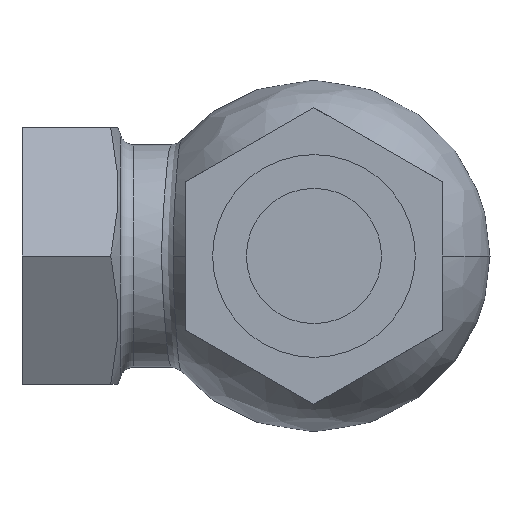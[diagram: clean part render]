
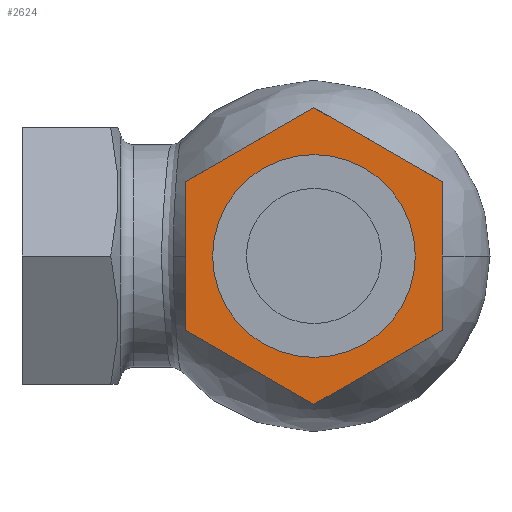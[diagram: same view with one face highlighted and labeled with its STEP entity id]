
A CAD part, front view. The second image highlights one B-rep face of the part: STEP entity #2624.
In plain terms, the highlighted planar face has unit normal (0, -1, 0).
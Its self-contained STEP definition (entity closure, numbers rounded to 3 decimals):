
#8 = LINE ( 'NONE', #1818, #4227 ) ;
#86 = ORIENTED_EDGE ( 'NONE', *, *, #3558, .T. ) ;
#121 = CIRCLE ( 'NONE', #490, 15. ) ;
#368 = FACE_BOUND ( 'NONE', #7537, .T. ) ;
#490 = AXIS2_PLACEMENT_3D ( 'NONE', #797, #4366, #7166 ) ;
#687 = ORIENTED_EDGE ( 'NONE', *, *, #10696, .T. ) ;
#797 = CARTESIAN_POINT ( 'NONE',  ( 0., -34., 0. ) ) ;
#894 = EDGE_LOOP ( 'NONE', ( #4110, #2842, #86, #3844, #4344, #8196 ) ) ;
#913 = VECTOR ( 'NONE', #11339, 1000. ) ;
#915 = LINE ( 'NONE', #9839, #1655 ) ;
#1183 = EDGE_CURVE ( 'NONE', #1936, #6440, #7364, .T. ) ;
#1268 = VECTOR ( 'NONE', #5452, 1000. ) ;
#1382 = LINE ( 'NONE', #10255, #4459 ) ;
#1543 = VECTOR ( 'NONE', #11042, 1000. ) ;
#1655 = VECTOR ( 'NONE', #5421, 1000. ) ;
#1818 = CARTESIAN_POINT ( 'NONE',  ( 0., -34., -21.939 ) ) ;
#1884 = CARTESIAN_POINT ( 'NONE',  ( 19., -34., -10.97 ) ) ;
#1936 = VERTEX_POINT ( 'NONE', #8176 ) ;
#2418 = CARTESIAN_POINT ( 'NONE',  ( 0., -34., 15. ) ) ;
#2624 = ADVANCED_FACE ( 'NONE', ( #368, #9193 ), #5695, .F. ) ;
#2842 = ORIENTED_EDGE ( 'NONE', *, *, #4265, .T. ) ;
#3359 = VERTEX_POINT ( 'NONE', #7919 ) ;
#3500 = CARTESIAN_POINT ( 'NONE',  ( 0., -34., 21.939 ) ) ;
#3558 = EDGE_CURVE ( 'NONE', #7994, #3359, #915, .T. ) ;
#3580 = LINE ( 'NONE', #10755, #1543 ) ;
#3844 = ORIENTED_EDGE ( 'NONE', *, *, #8539, .T. ) ;
#3934 = CARTESIAN_POINT ( 'NONE',  ( 15., -34., 0. ) ) ;
#4110 = ORIENTED_EDGE ( 'NONE', *, *, #11415, .T. ) ;
#4147 = AXIS2_PLACEMENT_3D ( 'NONE', #6529, #9160, #6358 ) ;
#4227 = VECTOR ( 'NONE', #6487, 1000. ) ;
#4265 = EDGE_CURVE ( 'NONE', #10386, #7994, #1382, .T. ) ;
#4344 = ORIENTED_EDGE ( 'NONE', *, *, #7889, .T. ) ;
#4366 = DIRECTION ( 'NONE',  ( 0., 1., 0. ) ) ;
#4459 = VECTOR ( 'NONE', #8580, 1000. ) ;
#5419 = ORIENTED_EDGE ( 'NONE', *, *, #6902, .T. ) ;
#5421 = DIRECTION ( 'NONE',  ( 0., 0., -1. ) ) ;
#5452 = DIRECTION ( 'NONE',  ( 0., 0., 1. ) ) ;
#5695 = PLANE ( 'NONE',  #5941 ) ;
#5941 = AXIS2_PLACEMENT_3D ( 'NONE', #3934, #9082, #8148 ) ;
#5966 = LINE ( 'NONE', #10332, #913 ) ;
#6358 = DIRECTION ( 'NONE',  ( 0., 0., 1. ) ) ;
#6440 = VERTEX_POINT ( 'NONE', #10561 ) ;
#6487 = DIRECTION ( 'NONE',  ( 0.866, 0., 0.5 ) ) ;
#6529 = CARTESIAN_POINT ( 'NONE',  ( 0., -34., 0. ) ) ;
#6609 = VERTEX_POINT ( 'NONE', #7406 ) ;
#6902 = EDGE_CURVE ( 'NONE', #8782, #10844, #121, .T. ) ;
#6916 = CARTESIAN_POINT ( 'NONE',  ( -19., -34., 10.97 ) ) ;
#7166 = DIRECTION ( 'NONE',  ( 0., 0., 1. ) ) ;
#7364 = LINE ( 'NONE', #1884, #1268 ) ;
#7406 = CARTESIAN_POINT ( 'NONE',  ( 0., -34., -21.939 ) ) ;
#7537 = EDGE_LOOP ( 'NONE', ( #5419, #687 ) ) ;
#7889 = EDGE_CURVE ( 'NONE', #6609, #1936, #8, .T. ) ;
#7919 = CARTESIAN_POINT ( 'NONE',  ( -19., -34., -10.97 ) ) ;
#7994 = VERTEX_POINT ( 'NONE', #6916 ) ;
#8148 = DIRECTION ( 'NONE',  ( 0., 0., 1. ) ) ;
#8176 = CARTESIAN_POINT ( 'NONE',  ( 19., -34., -10.97 ) ) ;
#8196 = ORIENTED_EDGE ( 'NONE', *, *, #1183, .T. ) ;
#8539 = EDGE_CURVE ( 'NONE', #3359, #6609, #5966, .T. ) ;
#8580 = DIRECTION ( 'NONE',  ( -0.866, 0., -0.5 ) ) ;
#8628 = CARTESIAN_POINT ( 'NONE',  ( 0., -34., -15. ) ) ;
#8782 = VERTEX_POINT ( 'NONE', #2418 ) ;
#9082 = DIRECTION ( 'NONE',  ( 0., 1., 0. ) ) ;
#9160 = DIRECTION ( 'NONE',  ( 0., 1., 0. ) ) ;
#9189 = CIRCLE ( 'NONE', #4147, 15. ) ;
#9193 = FACE_OUTER_BOUND ( 'NONE', #894, .T. ) ;
#9839 = CARTESIAN_POINT ( 'NONE',  ( -19., -34., 10.97 ) ) ;
#10255 = CARTESIAN_POINT ( 'NONE',  ( 0., -34., 21.939 ) ) ;
#10332 = CARTESIAN_POINT ( 'NONE',  ( -19., -34., -10.97 ) ) ;
#10386 = VERTEX_POINT ( 'NONE', #3500 ) ;
#10561 = CARTESIAN_POINT ( 'NONE',  ( 19., -34., 10.97 ) ) ;
#10696 = EDGE_CURVE ( 'NONE', #10844, #8782, #9189, .T. ) ;
#10755 = CARTESIAN_POINT ( 'NONE',  ( 19., -34., 10.97 ) ) ;
#10844 = VERTEX_POINT ( 'NONE', #8628 ) ;
#11042 = DIRECTION ( 'NONE',  ( -0.866, 0., 0.5 ) ) ;
#11339 = DIRECTION ( 'NONE',  ( 0.866, 0., -0.5 ) ) ;
#11415 = EDGE_CURVE ( 'NONE', #6440, #10386, #3580, .T. ) ;
